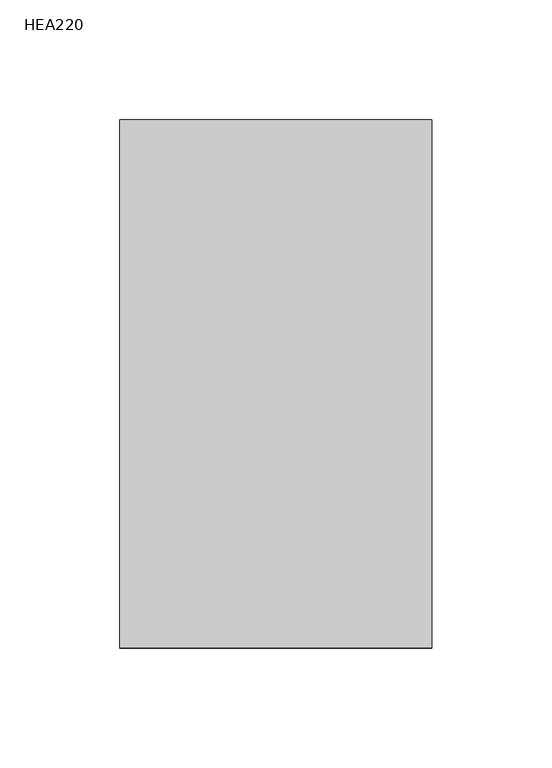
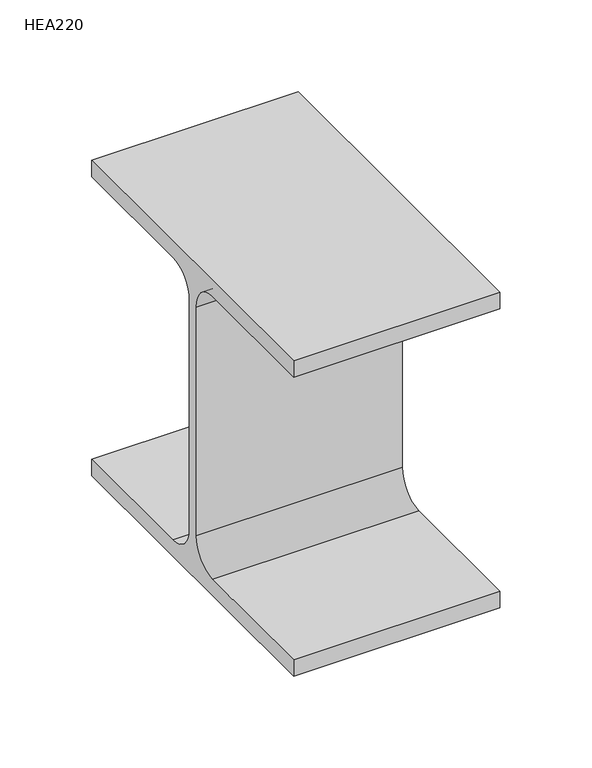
"""IFC4 building model written with IfcOpenShell, lengths in millimetres: beam geometry, HE-A : HEA220."""

from ifc_helpers import new_model, si_unit, point, frame, frame_2d, origin, place, context, project, spatial, polyline, circle_curve, trimmed, segment, composite_curve, outline, extrude, source, transform, mapped, element, save


def hea220_8597afc0(model_context):
    return source(origin(), model_context, "Body", "SweptSolid", [
        extrude(outline(composite_curve([segment(polyline([(110.0, -94.0), (110.0, -105.0), (-110.0, -105.0), (-110.0, -94.0), (-21.5, -94.0)]), True, "CONTINUOUS"), segment(trimmed(circle_curve(frame_2d((-21.5, -76.0)), 18.0), [point((-21.5, -94.0))], [point((-3.5, -76.0))], True, "CARTESIAN"), True, "CONTINUOUS"), segment(polyline([(-3.5, -76.0), (-3.5, 76.0)]), True, "CONTINUOUS"), segment(trimmed(circle_curve(frame_2d((-21.5, 76.0)), 18.0), [point((-3.5, 76.0))], [point((-21.5, 94.0))], True, "CARTESIAN"), True, "CONTINUOUS"), segment(polyline([(-21.5, 94.0), (-110.0, 94.0), (-110.0, 105.0), (110.0, 105.0), (110.0, 94.0), (21.5, 94.0)]), True, "CONTINUOUS"), segment(trimmed(circle_curve(frame_2d((21.5, 76.0)), 18.0), [point((21.5, 94.0))], [point((3.5, 76.0))], True, "CARTESIAN"), True, "CONTINUOUS"), segment(polyline([(3.5, 76.0), (3.5, -76.0)]), True, "CONTINUOUS"), segment(trimmed(circle_curve(frame_2d((21.5, -76.0)), 18.0), [point((3.5, -76.0))], [point((21.5, -94.0))], True, "CARTESIAN"), True, "CONTINUOUS"), segment(polyline([(21.5, -94.0), (110.0, -94.0)]), True, "CONTINUOUS")], self_intersect=False)), frame((-64.95, 0.0, 0.0), z_axis=(1.0, 0.0, 0.0), x_axis=(0.0, 1.0, 0.0)), (0.0, 0.0, 1.0), 129.9),
    ])


if __name__ == "__main__":
    model = new_model("IFC4")
    model_context = context("Model", 3, world=origin())
    ifc_project = project(units=[si_unit("LENGTHUNIT", "METRE", prefix="MILLI")], contexts=[model_context])
    site = spatial("IfcSite", under=ifc_project)
    building = spatial("IfcBuilding", under=site)
    placement = place(None, origin())
    hea220_shape = hea220_8597afc0(model_context)
    element("IfcBeam", 1, ObjectType="HE-A : HEA220", at=placement, inside=building, context=model_context, shape_type="MappedRepresentation", body=[
        mapped(hea220_shape, transform((0.0, 0.0, 0.0), x_axis=(1.0, 0.0, 0.0), y_axis=(0.0, 1.0, 0.0), z_axis=(0.0, 0.0, 1.0))),
    ])
    save(model, "model.ifc")
